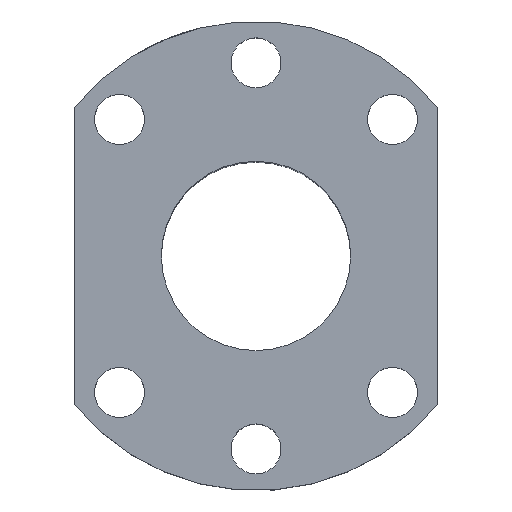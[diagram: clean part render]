
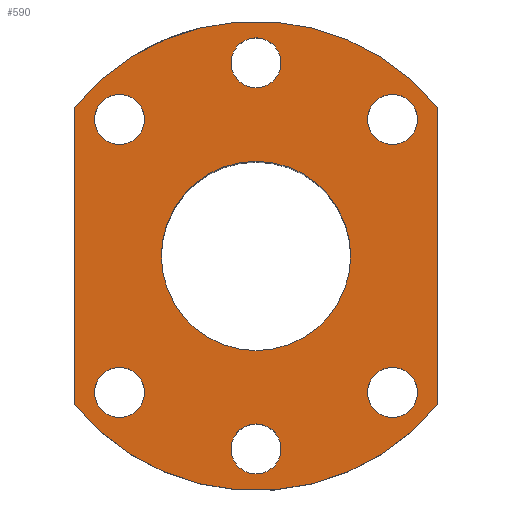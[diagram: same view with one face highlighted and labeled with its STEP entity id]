
A CAD part, top view. The second image highlights one B-rep face of the part: STEP entity #590.
In plain terms, the highlighted planar face has unit normal (0, 0, 1).
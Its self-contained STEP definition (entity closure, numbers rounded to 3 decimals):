
#63=CARTESIAN_POINT('',(0.,0.,41.));
#64=DIRECTION('',(0.,0.,-1.));
#65=DIRECTION('',(1.,0.,0.));
#66=AXIS2_PLACEMENT_3D('',#63,#64,#65);
#68=CARTESIAN_POINT('',(0.,0.,41.));
#69=DIRECTION('',(0.,0.,-1.));
#70=DIRECTION('',(-1.,0.,0.));
#71=AXIS2_PLACEMENT_3D('',#68,#69,#70);
#73=CARTESIAN_POINT('',(18.031,18.031,41.));
#74=DIRECTION('',(0.,0.,-1.));
#75=DIRECTION('',(1.,0.,0.));
#76=AXIS2_PLACEMENT_3D('',#73,#74,#75);
#78=CARTESIAN_POINT('',(18.031,18.031,41.));
#79=DIRECTION('',(0.,0.,-1.));
#80=DIRECTION('',(-1.,0.,0.));
#81=AXIS2_PLACEMENT_3D('',#78,#79,#80);
#83=CARTESIAN_POINT('',(0.,25.5,41.));
#84=DIRECTION('',(0.,0.,-1.));
#85=DIRECTION('',(1.,0.,0.));
#86=AXIS2_PLACEMENT_3D('',#83,#84,#85);
#88=CARTESIAN_POINT('',(0.,25.5,41.));
#89=DIRECTION('',(0.,0.,-1.));
#90=DIRECTION('',(-1.,0.,0.));
#91=AXIS2_PLACEMENT_3D('',#88,#89,#90);
#93=CARTESIAN_POINT('',(-18.031,18.031,41.));
#94=DIRECTION('',(0.,0.,-1.));
#95=DIRECTION('',(1.,0.,0.));
#96=AXIS2_PLACEMENT_3D('',#93,#94,#95);
#98=CARTESIAN_POINT('',(-18.031,18.031,41.));
#99=DIRECTION('',(0.,0.,-1.));
#100=DIRECTION('',(-1.,0.,0.));
#101=AXIS2_PLACEMENT_3D('',#98,#99,#100);
#103=CARTESIAN_POINT('',(-18.031,-18.031,41.));
#104=DIRECTION('',(0.,0.,-1.));
#105=DIRECTION('',(1.,0.,0.));
#106=AXIS2_PLACEMENT_3D('',#103,#104,#105);
#108=CARTESIAN_POINT('',(-18.031,-18.031,41.));
#109=DIRECTION('',(0.,0.,-1.));
#110=DIRECTION('',(-1.,0.,0.));
#111=AXIS2_PLACEMENT_3D('',#108,#109,#110);
#113=CARTESIAN_POINT('',(0.,-25.5,41.));
#114=DIRECTION('',(0.,0.,-1.));
#115=DIRECTION('',(1.,0.,0.));
#116=AXIS2_PLACEMENT_3D('',#113,#114,#115);
#118=CARTESIAN_POINT('',(0.,-25.5,41.));
#119=DIRECTION('',(0.,0.,-1.));
#120=DIRECTION('',(-1.,0.,0.));
#121=AXIS2_PLACEMENT_3D('',#118,#119,#120);
#123=CARTESIAN_POINT('',(18.031,-18.031,41.));
#124=DIRECTION('',(0.,0.,-1.));
#125=DIRECTION('',(1.,0.,0.));
#126=AXIS2_PLACEMENT_3D('',#123,#124,#125);
#128=CARTESIAN_POINT('',(18.031,-18.031,41.));
#129=DIRECTION('',(0.,0.,-1.));
#130=DIRECTION('',(-1.,0.,0.));
#131=AXIS2_PLACEMENT_3D('',#128,#129,#130);
#133=CARTESIAN_POINT('',(0.,0.,41.));
#134=DIRECTION('',(0.,0.,1.));
#135=DIRECTION('',(0.774,0.633,0.));
#136=AXIS2_PLACEMENT_3D('',#133,#134,#135);
#138=DIRECTION('',(0.,1.,0.));
#139=VECTOR('',#138,39.243);
#140=CARTESIAN_POINT('',(24.,-19.621,41.));
#141=LINE('',#140,#139);
#142=CARTESIAN_POINT('',(0.,0.,41.));
#143=DIRECTION('',(0.,0.,1.));
#144=DIRECTION('',(-0.774,-0.633,0.));
#145=AXIS2_PLACEMENT_3D('',#142,#143,#144);
#147=DIRECTION('',(0.,-1.,0.));
#148=VECTOR('',#147,39.243);
#149=CARTESIAN_POINT('',(-24.,19.621,41.));
#150=LINE('',#149,#148);
#427=CARTESIAN_POINT('',(12.5,0.,41.));
#428=CARTESIAN_POINT('',(-12.5,0.,41.));
#429=VERTEX_POINT('',#427);
#430=VERTEX_POINT('',#428);
#431=CARTESIAN_POINT('',(21.331,18.031,41.));
#432=CARTESIAN_POINT('',(14.731,18.031,41.));
#433=VERTEX_POINT('',#431);
#434=VERTEX_POINT('',#432);
#435=CARTESIAN_POINT('',(3.3,25.5,41.));
#436=CARTESIAN_POINT('',(-3.3,25.5,41.));
#437=VERTEX_POINT('',#435);
#438=VERTEX_POINT('',#436);
#439=CARTESIAN_POINT('',(-14.731,18.031,41.));
#440=CARTESIAN_POINT('',(-21.331,18.031,41.));
#441=VERTEX_POINT('',#439);
#442=VERTEX_POINT('',#440);
#443=CARTESIAN_POINT('',(-14.731,-18.031,41.));
#444=CARTESIAN_POINT('',(-21.331,-18.031,41.));
#445=VERTEX_POINT('',#443);
#446=VERTEX_POINT('',#444);
#447=CARTESIAN_POINT('',(3.3,-25.5,41.));
#448=CARTESIAN_POINT('',(-3.3,-25.5,41.));
#449=VERTEX_POINT('',#447);
#450=VERTEX_POINT('',#448);
#451=CARTESIAN_POINT('',(21.331,-18.031,41.));
#452=CARTESIAN_POINT('',(14.731,-18.031,41.));
#453=VERTEX_POINT('',#451);
#454=VERTEX_POINT('',#452);
#455=CARTESIAN_POINT('',(24.,19.621,41.));
#456=CARTESIAN_POINT('',(-24.,19.621,41.));
#457=VERTEX_POINT('',#455);
#458=VERTEX_POINT('',#456);
#459=CARTESIAN_POINT('',(-24.,-19.621,41.));
#460=VERTEX_POINT('',#459);
#461=CARTESIAN_POINT('',(24.,-19.621,41.));
#462=VERTEX_POINT('',#461);
#535=CARTESIAN_POINT('',(0.,0.,41.));
#536=DIRECTION('',(0.,0.,1.));
#537=DIRECTION('',(1.,0.,0.));
#538=AXIS2_PLACEMENT_3D('',#535,#536,#537);
#539=PLANE('',#538);
#541=ORIENTED_EDGE('',*,*,#540,.F.);
#543=ORIENTED_EDGE('',*,*,#542,.F.);
#545=ORIENTED_EDGE('',*,*,#544,.F.);
#547=ORIENTED_EDGE('',*,*,#546,.F.);
#548=EDGE_LOOP('',(#541,#543,#545,#547));
#549=FACE_OUTER_BOUND('',#548,.F.);
#551=ORIENTED_EDGE('',*,*,#550,.F.);
#553=ORIENTED_EDGE('',*,*,#552,.F.);
#554=EDGE_LOOP('',(#551,#553));
#555=FACE_BOUND('',#554,.F.);
#557=ORIENTED_EDGE('',*,*,#556,.F.);
#559=ORIENTED_EDGE('',*,*,#558,.F.);
#560=EDGE_LOOP('',(#557,#559));
#561=FACE_BOUND('',#560,.F.);
#563=ORIENTED_EDGE('',*,*,#562,.F.);
#565=ORIENTED_EDGE('',*,*,#564,.F.);
#566=EDGE_LOOP('',(#563,#565));
#567=FACE_BOUND('',#566,.F.);
#569=ORIENTED_EDGE('',*,*,#568,.F.);
#571=ORIENTED_EDGE('',*,*,#570,.F.);
#572=EDGE_LOOP('',(#569,#571));
#573=FACE_BOUND('',#572,.F.);
#575=ORIENTED_EDGE('',*,*,#574,.F.);
#577=ORIENTED_EDGE('',*,*,#576,.F.);
#578=EDGE_LOOP('',(#575,#577));
#579=FACE_BOUND('',#578,.F.);
#581=ORIENTED_EDGE('',*,*,#580,.F.);
#583=ORIENTED_EDGE('',*,*,#582,.F.);
#584=EDGE_LOOP('',(#581,#583));
#585=FACE_BOUND('',#584,.F.);
#586=ORIENTED_EDGE('',*,*,#508,.F.);
#587=ORIENTED_EDGE('',*,*,#522,.F.);
#588=EDGE_LOOP('',(#586,#587));
#589=FACE_BOUND('',#588,.F.);
#67=CIRCLE('',#66,12.5);
#72=CIRCLE('',#71,12.5);
#77=CIRCLE('',#76,3.3);
#82=CIRCLE('',#81,3.3);
#87=CIRCLE('',#86,3.3);
#92=CIRCLE('',#91,3.3);
#97=CIRCLE('',#96,3.3);
#102=CIRCLE('',#101,3.3);
#107=CIRCLE('',#106,3.3);
#112=CIRCLE('',#111,3.3);
#117=CIRCLE('',#116,3.3);
#122=CIRCLE('',#121,3.3);
#127=CIRCLE('',#126,3.3);
#132=CIRCLE('',#131,3.3);
#137=CIRCLE('',#136,31.);
#146=CIRCLE('',#145,31.);
#508=EDGE_CURVE('',#429,#430,#67,.T.);
#522=EDGE_CURVE('',#430,#429,#72,.T.);
#540=EDGE_CURVE('',#457,#458,#137,.T.);
#542=EDGE_CURVE('',#462,#457,#141,.T.);
#544=EDGE_CURVE('',#460,#462,#146,.T.);
#546=EDGE_CURVE('',#458,#460,#150,.T.);
#550=EDGE_CURVE('',#433,#434,#77,.T.);
#552=EDGE_CURVE('',#434,#433,#82,.T.);
#556=EDGE_CURVE('',#437,#438,#87,.T.);
#558=EDGE_CURVE('',#438,#437,#92,.T.);
#562=EDGE_CURVE('',#441,#442,#97,.T.);
#564=EDGE_CURVE('',#442,#441,#102,.T.);
#568=EDGE_CURVE('',#445,#446,#107,.T.);
#570=EDGE_CURVE('',#446,#445,#112,.T.);
#574=EDGE_CURVE('',#449,#450,#117,.T.);
#576=EDGE_CURVE('',#450,#449,#122,.T.);
#580=EDGE_CURVE('',#453,#454,#127,.T.);
#582=EDGE_CURVE('',#454,#453,#132,.T.);
#590=ADVANCED_FACE('',(#549,#555,#561,#567,#573,#579,#585,#589),#539,.T.);
